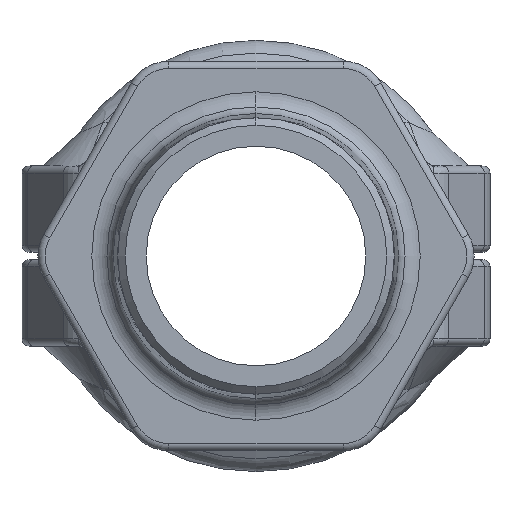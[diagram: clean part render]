
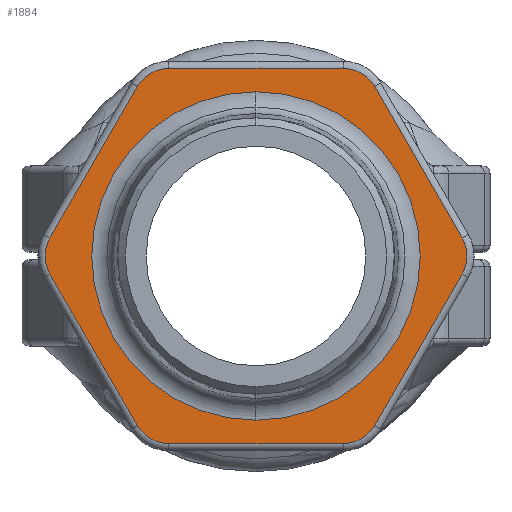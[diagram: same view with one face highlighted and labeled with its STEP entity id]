
A CAD part, left-side view. The second image highlights one B-rep face of the part: STEP entity #1884.
In plain terms, the highlighted planar face has unit normal (-1, 0, 0).
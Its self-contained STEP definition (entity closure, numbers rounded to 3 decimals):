
#475=DIRECTION('',(0.,1.,0.));
#476=VECTOR('',#475,24.255);
#477=CARTESIAN_POINT('',(-58.272,-12.128,26.043));
#478=LINE('',#477,#476);
#568=DIRECTION('',(0.,-1.,0.));
#569=VECTOR('',#568,24.255);
#570=CARTESIAN_POINT('',(-58.272,12.128,-26.043));
#571=LINE('',#570,#569);
#582=CARTESIAN_POINT('',(-58.272,-12.128,21.006));
#583=DIRECTION('',(1.,0.,0.));
#584=DIRECTION('',(0.,0.,1.));
#585=AXIS2_PLACEMENT_3D('',#582,#583,#584);
#590=DIRECTION('',(0.,-0.5,-0.866));
#591=VECTOR('',#590,24.255);
#592=CARTESIAN_POINT('',(-58.272,-16.49,23.524));
#593=LINE('',#592,#591);
#597=CARTESIAN_POINT('',(-58.272,-24.255,
0.));
#598=DIRECTION('',(1.,0.,0.));
#599=DIRECTION('',(0.,-0.866,0.5));
#600=AXIS2_PLACEMENT_3D('',#597,#598,#599);
#605=DIRECTION('',(0.,0.5,-0.866));
#606=VECTOR('',#605,24.255);
#607=CARTESIAN_POINT('',(-58.272,-28.618,
-2.519));
#608=LINE('',#607,#606);
#612=CARTESIAN_POINT('',(-58.272,-12.128,
-21.006));
#613=DIRECTION('',(1.,0.,0.));
#614=DIRECTION('',(0.,-0.866,-0.5));
#615=AXIS2_PLACEMENT_3D('',#612,#613,#614);
#620=CARTESIAN_POINT('',(-58.272,12.128,-21.006));
#621=DIRECTION('',(1.,0.,0.));
#622=DIRECTION('',(0.,0.,-1.));
#623=AXIS2_PLACEMENT_3D('',#620,#621,#622);
#628=DIRECTION('',(0.,0.5,0.866));
#629=VECTOR('',#628,24.255);
#630=CARTESIAN_POINT('',(-58.272,16.49,-23.524));
#631=LINE('',#630,#629);
#635=CARTESIAN_POINT('',(-58.272,24.255,
0.));
#636=DIRECTION('',(1.,0.,0.));
#637=DIRECTION('',(0.,0.866,-0.5));
#638=AXIS2_PLACEMENT_3D('',#635,#636,#637);
#643=DIRECTION('',(0.,-0.5,0.866));
#644=VECTOR('',#643,24.255);
#645=CARTESIAN_POINT('',(-58.272,28.618,2.519));
#646=LINE('',#645,#644);
#650=CARTESIAN_POINT('',(-58.272,12.128,21.006));
#651=DIRECTION('',(1.,0.,0.));
#652=DIRECTION('',(0.,0.866,0.5));
#653=AXIS2_PLACEMENT_3D('',#650,#651,#652);
#658=CARTESIAN_POINT('',(-58.272,0.,0.));
#659=DIRECTION('',(-1.,0.,0.));
#660=DIRECTION('',(0.,0.,-1.));
#661=AXIS2_PLACEMENT_3D('',#658,#659,#660);
#666=CARTESIAN_POINT('',(-58.272,0.,0.));
#667=DIRECTION('',(-1.,0.,0.));
#668=DIRECTION('',(0.,0.,1.));
#669=AXIS2_PLACEMENT_3D('',#666,#667,#668);
#1231=CARTESIAN_POINT('',(-58.272,16.49,
-23.524));
#1232=VERTEX_POINT('',#1231);
#1233=CARTESIAN_POINT('',(-58.272,12.128,
-26.043));
#1234=VERTEX_POINT('',#1233);
#1235=CARTESIAN_POINT('',(-58.272,28.618,-2.519));
#1236=VERTEX_POINT('',#1235);
#1237=CARTESIAN_POINT('',(-58.272,28.618,2.519));
#1238=VERTEX_POINT('',#1237);
#1239=CARTESIAN_POINT('',(-58.272,16.49,23.524));
#1240=VERTEX_POINT('',#1239);
#1241=CARTESIAN_POINT('',(-58.272,12.128,26.043));
#1242=VERTEX_POINT('',#1241);
#1243=CARTESIAN_POINT('',(-58.272,-12.128,
26.043));
#1244=VERTEX_POINT('',#1243);
#1245=CARTESIAN_POINT('',(-58.272,-16.49,
23.524));
#1246=VERTEX_POINT('',#1245);
#1247=CARTESIAN_POINT('',(-58.272,-28.618,2.519));
#1248=VERTEX_POINT('',#1247);
#1249=CARTESIAN_POINT('',(-58.272,-28.618,
-2.519));
#1250=VERTEX_POINT('',#1249);
#1251=CARTESIAN_POINT('',(-58.272,-16.49,
-23.524));
#1252=VERTEX_POINT('',#1251);
#1253=CARTESIAN_POINT('',(-58.272,-12.128,
-26.043));
#1254=VERTEX_POINT('',#1253);
#1255=CARTESIAN_POINT('',(-58.272,0.,-22.81));
#1256=CARTESIAN_POINT('',(-58.272,0.,22.81));
#1257=VERTEX_POINT('',#1255);
#1258=VERTEX_POINT('',#1256);
#1859=CARTESIAN_POINT('',(-58.272,22.81,0.));
#1860=DIRECTION('',(-1.,0.,0.));
#1861=DIRECTION('',(0.,0.,1.));
#1862=AXIS2_PLACEMENT_3D('',#1859,#1860,#1861);
#1863=PLANE('',#1862);
#1864=ORIENTED_EDGE('',*,*,#1785,.T.);
#1865=ORIENTED_EDGE('',*,*,#1797,.T.);
#1866=ORIENTED_EDGE('',*,*,#1811,.T.);
#1867=ORIENTED_EDGE('',*,*,#1825,.T.);
#1868=ORIENTED_EDGE('',*,*,#1839,.T.);
#1869=ORIENTED_EDGE('',*,*,#1852,.F.);
#1870=ORIENTED_EDGE('',*,*,#1698,.T.);
#1871=ORIENTED_EDGE('',*,*,#1713,.T.);
#1872=ORIENTED_EDGE('',*,*,#1729,.T.);
#1873=ORIENTED_EDGE('',*,*,#1743,.T.);
#1874=ORIENTED_EDGE('',*,*,#1757,.T.);
#1875=ORIENTED_EDGE('',*,*,#1771,.F.);
#1876=EDGE_LOOP('',(#1864,#1865,#1866,#1867,#1868,#1869,#1870,#1871,#1872,#1873,
#1874,#1875));
#1877=FACE_OUTER_BOUND('',#1876,.F.);
#1879=ORIENTED_EDGE('',*,*,#1878,.T.);
#1881=ORIENTED_EDGE('',*,*,#1880,.T.);
#1882=EDGE_LOOP('',(#1879,#1881));
#1883=FACE_BOUND('',#1882,.F.);
#586=CIRCLE('',#585,5.037);
#601=CIRCLE('',#600,5.037);
#616=CIRCLE('',#615,5.037);
#624=CIRCLE('',#623,5.037);
#639=CIRCLE('',#638,5.037);
#654=CIRCLE('',#653,5.037);
#662=CIRCLE('',#661,22.81);
#670=CIRCLE('',#669,22.81);
#1698=EDGE_CURVE('',#1234,#1232,#624,.T.);
#1713=EDGE_CURVE('',#1232,#1236,#631,.T.);
#1729=EDGE_CURVE('',#1236,#1238,#639,.T.);
#1743=EDGE_CURVE('',#1238,#1240,#646,.T.);
#1757=EDGE_CURVE('',#1240,#1242,#654,.T.);
#1771=EDGE_CURVE('',#1244,#1242,#478,.T.);
#1785=EDGE_CURVE('',#1244,#1246,#586,.T.);
#1797=EDGE_CURVE('',#1246,#1248,#593,.T.);
#1811=EDGE_CURVE('',#1248,#1250,#601,.T.);
#1825=EDGE_CURVE('',#1250,#1252,#608,.T.);
#1839=EDGE_CURVE('',#1252,#1254,#616,.T.);
#1852=EDGE_CURVE('',#1234,#1254,#571,.T.);
#1878=EDGE_CURVE('',#1257,#1258,#662,.T.);
#1880=EDGE_CURVE('',#1258,#1257,#670,.T.);
#1884=ADVANCED_FACE('',(#1877,#1883),#1863,.T.);
